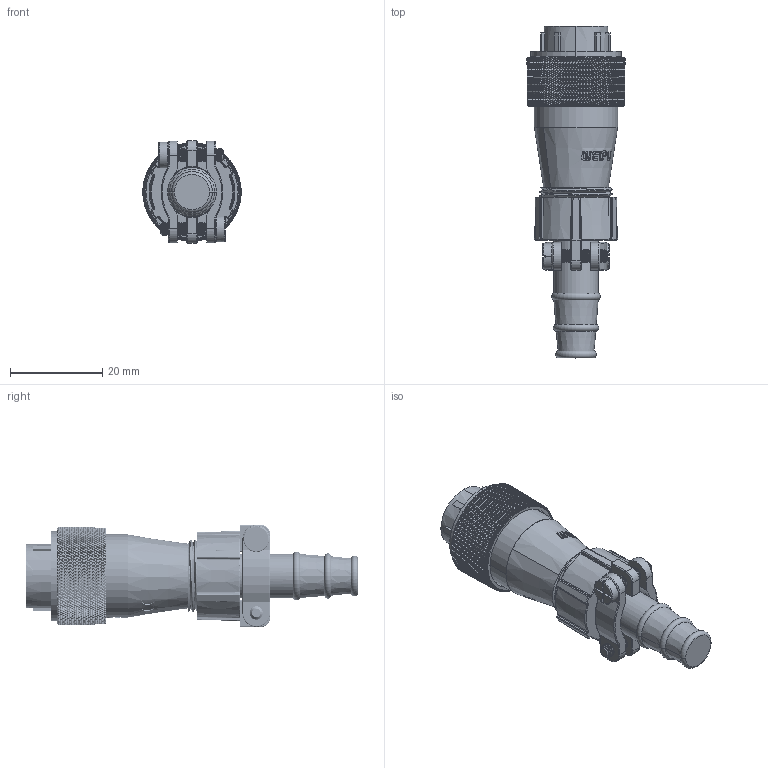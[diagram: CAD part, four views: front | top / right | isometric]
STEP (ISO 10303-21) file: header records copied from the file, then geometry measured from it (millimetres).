
FILE_DESCRIPTION((''),'2;1');
FILE_NAME('ASM0001_ASM','2020-06-10T',('Administrator'),(''),'CREO PARAMETRIC BY PTC INC, 2016130','CREO PARAMETRIC BY PTC INC, 2016130','');
FILE_SCHEMA(('CONFIG_CONTROL_DESIGN'));
Products named in the file (1): ASM0001_ASM
Bounding box: 21.25 x 71.8 x 22.1 mm (x, y, z)
Volume: 12529.2 mm3; surface area: 10747.5 mm2
Topology: 2 solids, 4 shells, 16144 faces, 35899 edges, 19711 vertices
Faces by surface type: bspline 8896, cylinder 4636, cone 2220, plane 307, torus 42, extrusion 31, sphere 12
Entity records: 677341 total; most frequent: CARTESIAN_POINT 410836, ORIENTED_EDGE 71774, EDGE_CURVE 35887, B_SPLINE_CURVE_WITH_KNOTS 27985, DIRECTION 23214, VERTEX_POINT 19711, EDGE_LOOP 16246, FACE_OUTER_BOUND 16144
